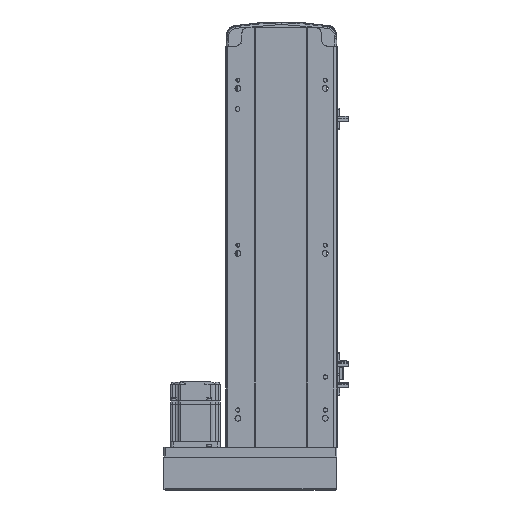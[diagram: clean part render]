
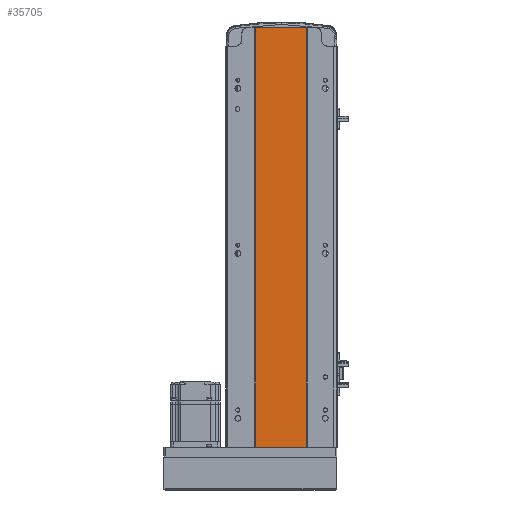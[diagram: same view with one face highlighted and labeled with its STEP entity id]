
A CAD part, front view. The second image highlights one B-rep face of the part: STEP entity #35705.
In plain terms, the highlighted planar face has unit normal (0, -1, 0).
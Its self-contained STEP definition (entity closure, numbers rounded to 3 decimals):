
#68 = VERTEX_POINT ( 'NONE', #38054 ) ;
#1523 = ORIENTED_EDGE ( 'NONE', *, *, #38956, .F. ) ;
#1581 = CARTESIAN_POINT ( 'NONE',  ( -32., 1., 509. ) ) ;
#3761 = CARTESIAN_POINT ( 'NONE',  ( -32., 1., 0. ) ) ;
#3817 = DIRECTION ( 'NONE',  ( 1., 0., 0. ) ) ;
#4091 = DIRECTION ( 'NONE',  ( 0., 1., 0. ) ) ;
#4252 = EDGE_CURVE ( 'NONE', #15965, #6009, #35096, .T. ) ;
#6009 = VERTEX_POINT ( 'NONE', #39617 ) ;
#6447 = LINE ( 'NONE', #3761, #30123 ) ;
#9197 = CARTESIAN_POINT ( 'NONE',  ( -32., 1., 509. ) ) ;
#14379 = EDGE_LOOP ( 'NONE', ( #40556, #1523, #21447, #23131 ) ) ;
#14653 = DIRECTION ( 'NONE',  ( 0., 0., -1. ) ) ;
#15423 = VECTOR ( 'NONE', #3817, 1000. ) ;
#15965 = VERTEX_POINT ( 'NONE', #9197 ) ;
#21447 = ORIENTED_EDGE ( 'NONE', *, *, #4252, .F. ) ;
#23131 = ORIENTED_EDGE ( 'NONE', *, *, #49533, .T. ) ;
#24573 = CARTESIAN_POINT ( 'NONE',  ( 30., 1., 509. ) ) ;
#29596 = VECTOR ( 'NONE', #14653, 1000. ) ;
#30123 = VECTOR ( 'NONE', #34691, 1000. ) ;
#30442 = DIRECTION ( 'NONE',  ( -1., 0., 0. ) ) ;
#32676 = EDGE_CURVE ( 'NONE', #68, #47708, #6447, .T. ) ;
#32992 = VECTOR ( 'NONE', #55355, 1000. ) ;
#34691 = DIRECTION ( 'NONE',  ( 1., 0., 0. ) ) ;
#34741 = CARTESIAN_POINT ( 'NONE',  ( -32., 1., 509. ) ) ;
#35096 = LINE ( 'NONE', #34741, #15423 ) ;
#35705 = ADVANCED_FACE ( 'NONE', ( #54351 ), #39159, .F. ) ;
#38054 = CARTESIAN_POINT ( 'NONE',  ( -32., 1., 0. ) ) ;
#38956 = EDGE_CURVE ( 'NONE', #6009, #47708, #45929, .T. ) ;
#39159 = PLANE ( 'NONE',  #41069 ) ;
#39617 = CARTESIAN_POINT ( 'NONE',  ( 30., 1., 509. ) ) ;
#40520 = LINE ( 'NONE', #1581, #29596 ) ;
#40556 = ORIENTED_EDGE ( 'NONE', *, *, #32676, .T. ) ;
#41069 = AXIS2_PLACEMENT_3D ( 'NONE', #48150, #4091, #30442 ) ;
#45929 = LINE ( 'NONE', #24573, #32992 ) ;
#47708 = VERTEX_POINT ( 'NONE', #54354 ) ;
#48150 = CARTESIAN_POINT ( 'NONE',  ( -32., 1., 509. ) ) ;
#49533 = EDGE_CURVE ( 'NONE', #15965, #68, #40520, .T. ) ;
#54351 = FACE_OUTER_BOUND ( 'NONE', #14379, .T. ) ;
#54354 = CARTESIAN_POINT ( 'NONE',  ( 30., 1., 0. ) ) ;
#55355 = DIRECTION ( 'NONE',  ( 0., 0., -1. ) ) ;
